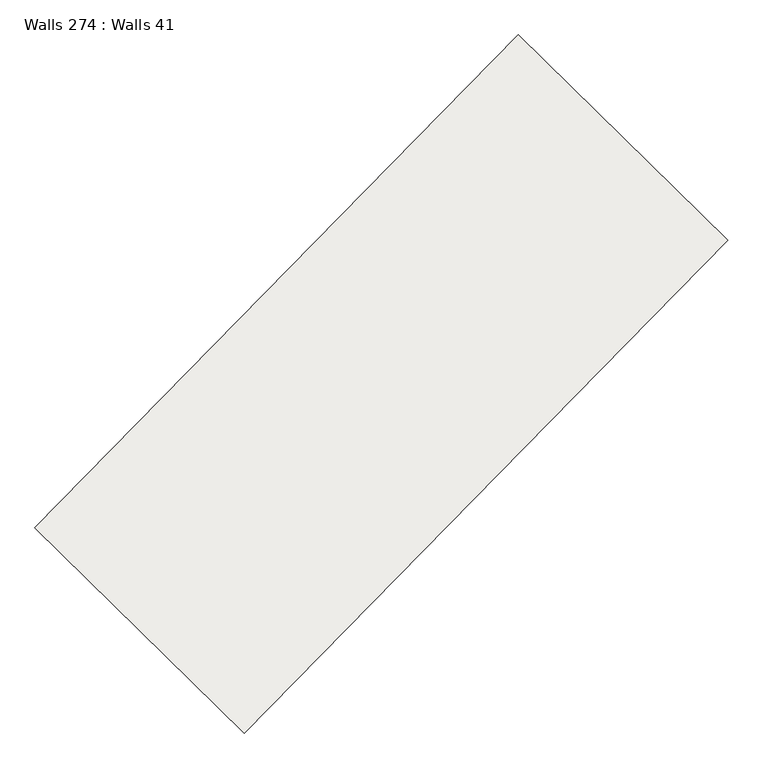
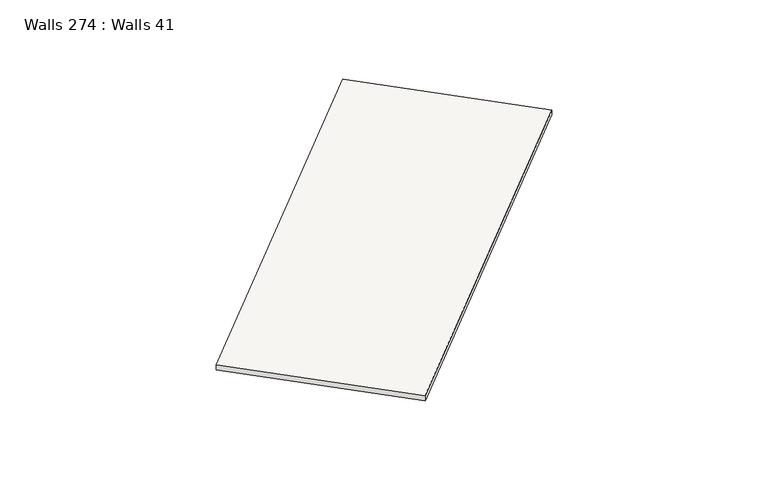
"""IFC4 building model written with IfcOpenShell, lengths in millimetres: slab geometry, Walls 274 : Walls 41."""

from ifc_helpers import new_model, si_unit, frame, origin, place, context, project, spatial, polyline, outline, extrude, source, transform, mapped, element, save


def walls_274_walls_41_4e02fec7(model_context):
    return source(origin(), model_context, "Body", "SweptSolid", [
        extrude(outline(polyline([(-50.0, 0.0), (50.0, 0.0), (-40.0, -8699.9999995), (-140.0, -8699.9999995), (-50.0, 0.0)])), frame((-134009.5576901, -295903.2512865, 636100.0), z_axis=(-0.7137361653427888, 0.700414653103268, 0.0), x_axis=(0.0, 0.0, 1.0)), (0.0, 0.0, 1.0), 3699.999995),
    ])


if __name__ == "__main__":
    model = new_model("IFC4")
    model_context = context("Model", 3, world=origin())
    ifc_project = project(units=[si_unit("LENGTHUNIT", "METRE", prefix="MILLI")], contexts=[model_context])
    site = spatial("IfcSite", under=ifc_project)
    building = spatial("IfcBuilding", under=site)
    placement = place(None, origin())
    walls_274_walls_41_shape = walls_274_walls_41_4e02fec7(model_context)
    element("IfcSlab", 1, ObjectType="Walls 274 : Walls 41", at=placement, inside=building, context=model_context, shape_type="MappedRepresentation", body=[
        mapped(walls_274_walls_41_shape, transform((0.0, 0.0, 0.0), x_axis=(1.0, 0.0, 0.0), y_axis=(0.0, 1.0, 0.0), z_axis=(0.0, 0.0, 1.0))),
    ])
    save(model, "model.ifc")
